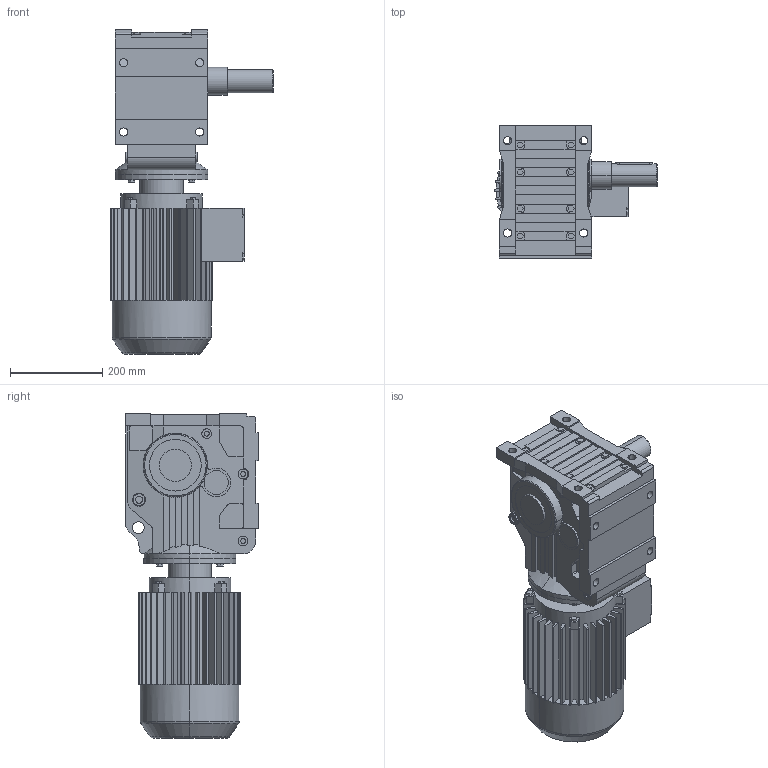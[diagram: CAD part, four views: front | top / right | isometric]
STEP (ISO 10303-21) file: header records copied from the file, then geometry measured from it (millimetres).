
FILE_DESCRIPTION(('Open CASCADE Model'),'2;1');
FILE_NAME('Open CASCADE Shape Model','2021-06-08T11:45:18',('Author'),( 'Open CASCADE'),'Open CASCADE STEP processor 6.3','Open CASCADE 6.3' ,'Unknown');
FILE_SCHEMA(('AUTOMOTIVE_DESIGN_CC2 { 1 2 10303 214 -1 1 5 4 }'));
Length unit declared in the file: millimetre
Products named in the file (4): 1_K77DV132S-A; K37‵157_77.step; 萇儂_200-DV132S-390-470-221-179.step; す瑩妗陑粣K_77.step
Assembly tree (3 placements, depth 2):
  1_K77DV132S-A
    K37‵157_77.step
    萇儂_200-DV132S-390-470-221-179.step
    す瑩妗陑粣K_77.step
Bounding box: 352.5 x 288 x 704 mm (x, y, z)
Volume: 25384068.7 mm3; surface area: 1224655.4 mm2
Topology: 3 solids, 3 shells, 841 faces, 2214 edges, 1436 vertices
Faces by surface type: plane 585, cylinder 231, cone 17, torus 8
Entity records: 57817 total; most frequent: CARTESIAN_POINT 15724, DIRECTION 7261, ORIENTED_EDGE 4424, PCURVE 4424, DEFINITIONAL_REPRESENTATION 4424, LINE 3951, VECTOR 3951, EDGE_CURVE 2212
